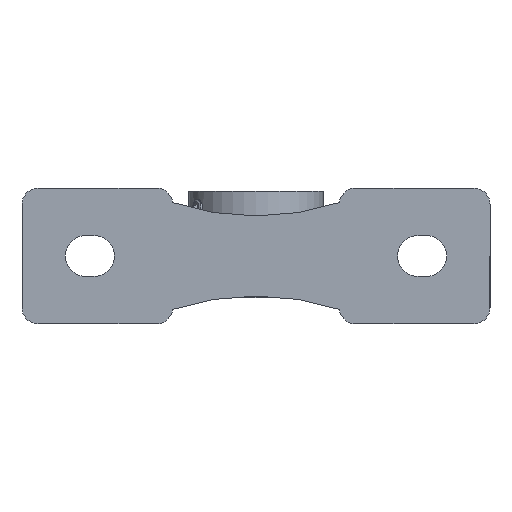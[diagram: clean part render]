
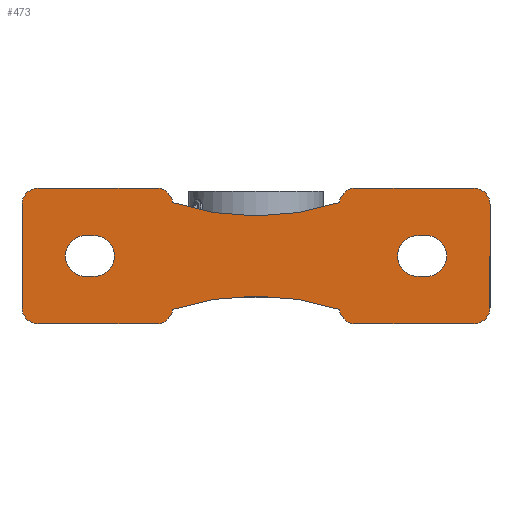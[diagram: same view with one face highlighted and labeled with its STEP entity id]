
A CAD part, front view. The second image highlights one B-rep face of the part: STEP entity #473.
In plain terms, the highlighted planar face has unit normal (0, -1, 0).
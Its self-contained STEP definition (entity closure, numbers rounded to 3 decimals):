
#256=CARTESIAN_POINT('',(0.,-76.2,0.));
#257=DIRECTION('',(0.0,1.0,0.0));
#258=DIRECTION('',(0.0,0.0,1.0));
#259=AXIS2_PLACEMENT_3D('',#256,#257,#258);
#260=PLANE('',#259);
#261=CARTESIAN_POINT('',(-133.0,-76.2,-41.5));
#262=VERTEX_POINT('',#261);
#263=CARTESIAN_POINT('',(-143.0,-76.2,-31.5));
#264=VERTEX_POINT('',#263);
#265=CARTESIAN_POINT('',(-133.0,-76.2,-31.5));
#266=DIRECTION('',(0.0,1.0,0.0));
#267=DIRECTION('',(-0.707,0.0,-0.707));
#268=AXIS2_PLACEMENT_3D('',#265,#266,#267);
#269=CIRCLE('',#268,10.);
#270=EDGE_CURVE('',#262,#264,#269,.T.);
#271=ORIENTED_EDGE('',*,*,#270,.F.);
#272=CARTESIAN_POINT('',(-60.93,-76.2,-41.5));
#273=VERTEX_POINT('',#272);
#274=CARTESIAN_POINT('',(-60.93,-76.2,-41.5));
#275=DIRECTION('',(-1.0,0.0,0.0));
#276=VECTOR('',#275,72.07);
#277=LINE('',#274,#276);
#278=EDGE_CURVE('',#273,#262,#277,.T.);
#279=ORIENTED_EDGE('',*,*,#278,.F.);
#280=CARTESIAN_POINT('',(-51.,-76.2,-32.684));
#281=VERTEX_POINT('',#280);
#282=CARTESIAN_POINT('',(-60.93,-76.2,-31.5));
#283=DIRECTION('',(0.0,1.0,0.0));
#284=DIRECTION('',(0.993,0.0,-0.118));
#285=AXIS2_PLACEMENT_3D('',#282,#283,#284);
#286=CIRCLE('',#285,10.);
#287=EDGE_CURVE('',#281,#273,#286,.T.);
#288=ORIENTED_EDGE('',*,*,#287,.F.);
#289=CARTESIAN_POINT('',(51.,-76.2,-32.684));
#290=VERTEX_POINT('',#289);
#291=CARTESIAN_POINT('',(0.,-76.2,-187.5));
#292=DIRECTION('',(0.0,-1.0,0.0));
#293=DIRECTION('',(1.0,0.0,0.0));
#294=AXIS2_PLACEMENT_3D('',#291,#292,#293);
#295=CIRCLE('',#294,163.0);
#296=EDGE_CURVE('',#290,#281,#295,.T.);
#297=ORIENTED_EDGE('',*,*,#296,.F.);
#298=CARTESIAN_POINT('',(60.93,-76.2,-41.5));
#299=VERTEX_POINT('',#298);
#300=CARTESIAN_POINT('',(60.93,-76.2,-31.5));
#301=DIRECTION('',(0.0,1.0,0.0));
#302=DIRECTION('',(-0.993,0.0,-0.118));
#303=AXIS2_PLACEMENT_3D('',#300,#301,#302);
#304=CIRCLE('',#303,10.);
#305=EDGE_CURVE('',#299,#290,#304,.T.);
#306=ORIENTED_EDGE('',*,*,#305,.F.);
#307=CARTESIAN_POINT('',(133.0,-76.2,-41.5));
#308=VERTEX_POINT('',#307);
#309=CARTESIAN_POINT('',(133.0,-76.2,-41.5));
#310=DIRECTION('',(-1.0,0.0,0.0));
#311=VECTOR('',#310,72.07);
#312=LINE('',#309,#311);
#313=EDGE_CURVE('',#308,#299,#312,.T.);
#314=ORIENTED_EDGE('',*,*,#313,.F.);
#315=CARTESIAN_POINT('',(143.,-76.2,-31.5));
#316=VERTEX_POINT('',#315);
#317=CARTESIAN_POINT('',(133.0,-76.2,-31.5));
#318=DIRECTION('',(0.0,1.0,0.0));
#319=DIRECTION('',(0.707,0.0,-0.707));
#320=AXIS2_PLACEMENT_3D('',#317,#318,#319);
#321=CIRCLE('',#320,10.);
#322=EDGE_CURVE('',#316,#308,#321,.T.);
#323=ORIENTED_EDGE('',*,*,#322,.F.);
#324=CARTESIAN_POINT('',(143.0,-76.2,31.5));
#325=VERTEX_POINT('',#324);
#326=CARTESIAN_POINT('',(143.0,-76.2,31.5));
#327=DIRECTION('',(0.0,0.0,-1.0));
#328=VECTOR('',#327,63.);
#329=LINE('',#326,#328);
#330=EDGE_CURVE('',#325,#316,#329,.T.);
#331=ORIENTED_EDGE('',*,*,#330,.F.);
#332=CARTESIAN_POINT('',(133.0,-76.2,41.5));
#333=VERTEX_POINT('',#332);
#334=CARTESIAN_POINT('',(133.0,-76.2,31.5));
#335=DIRECTION('',(0.0,1.0,0.0));
#336=DIRECTION('',(0.707,0.0,0.707));
#337=AXIS2_PLACEMENT_3D('',#334,#335,#336);
#338=CIRCLE('',#337,10.);
#339=EDGE_CURVE('',#333,#325,#338,.T.);
#340=ORIENTED_EDGE('',*,*,#339,.F.);
#341=CARTESIAN_POINT('',(60.93,-76.2,41.5));
#342=VERTEX_POINT('',#341);
#343=CARTESIAN_POINT('',(60.93,-76.2,41.5));
#344=DIRECTION('',(1.0,0.0,0.0));
#345=VECTOR('',#344,72.07);
#346=LINE('',#343,#345);
#347=EDGE_CURVE('',#342,#333,#346,.T.);
#348=ORIENTED_EDGE('',*,*,#347,.F.);
#349=CARTESIAN_POINT('',(51.,-76.2,32.684));
#350=VERTEX_POINT('',#349);
#351=CARTESIAN_POINT('',(60.93,-76.2,31.5));
#352=DIRECTION('',(0.0,1.0,0.0));
#353=DIRECTION('',(-0.993,0.0,0.118));
#354=AXIS2_PLACEMENT_3D('',#351,#352,#353);
#355=CIRCLE('',#354,10.);
#356=EDGE_CURVE('',#350,#342,#355,.T.);
#357=ORIENTED_EDGE('',*,*,#356,.F.);
#358=CARTESIAN_POINT('',(-51.,-76.2,32.684));
#359=VERTEX_POINT('',#358);
#360=CARTESIAN_POINT('',(0.,-76.2,187.5));
#361=DIRECTION('',(0.0,-1.0,0.0));
#362=DIRECTION('',(1.0,0.0,0.0));
#363=AXIS2_PLACEMENT_3D('',#360,#361,#362);
#364=CIRCLE('',#363,163.0);
#365=EDGE_CURVE('',#359,#350,#364,.T.);
#366=ORIENTED_EDGE('',*,*,#365,.F.);
#367=CARTESIAN_POINT('',(-60.93,-76.2,41.5));
#368=VERTEX_POINT('',#367);
#369=CARTESIAN_POINT('',(-60.93,-76.2,31.5));
#370=DIRECTION('',(0.0,1.0,0.0));
#371=DIRECTION('',(0.993,0.0,0.118));
#372=AXIS2_PLACEMENT_3D('',#369,#370,#371);
#373=CIRCLE('',#372,10.);
#374=EDGE_CURVE('',#368,#359,#373,.T.);
#375=ORIENTED_EDGE('',*,*,#374,.F.);
#376=CARTESIAN_POINT('',(-133.0,-76.2,41.5));
#377=VERTEX_POINT('',#376);
#378=CARTESIAN_POINT('',(-133.0,-76.2,41.5));
#379=DIRECTION('',(1.0,0.0,0.0));
#380=VECTOR('',#379,72.07);
#381=LINE('',#378,#380);
#382=EDGE_CURVE('',#377,#368,#381,.T.);
#383=ORIENTED_EDGE('',*,*,#382,.F.);
#384=CARTESIAN_POINT('',(-143.0,-76.2,31.5));
#385=VERTEX_POINT('',#384);
#386=CARTESIAN_POINT('',(-133.0,-76.2,31.5));
#387=DIRECTION('',(0.0,1.0,0.0));
#388=DIRECTION('',(-0.707,0.0,0.707));
#389=AXIS2_PLACEMENT_3D('',#386,#387,#388);
#390=CIRCLE('',#389,10.);
#391=EDGE_CURVE('',#385,#377,#390,.T.);
#392=ORIENTED_EDGE('',*,*,#391,.F.);
#393=CARTESIAN_POINT('',(-143.0,-76.2,-31.5));
#394=DIRECTION('',(0.0,0.0,1.0));
#395=VECTOR('',#394,63.);
#396=LINE('',#393,#395);
#397=EDGE_CURVE('',#264,#385,#396,.T.);
#398=ORIENTED_EDGE('',*,*,#397,.F.);
#399=EDGE_LOOP('',(#271,#279,#288,#297,#306,#314,#323,#331,#340,#348,#357,#366,#375,#383,#392,#398));
#400=FACE_OUTER_BOUND('',#399,.T.);
#401=CARTESIAN_POINT('',(99.0,-76.2,-12.5));
#402=VERTEX_POINT('',#401);
#403=CARTESIAN_POINT('',(104.,-76.2,-12.5));
#404=VERTEX_POINT('',#403);
#405=CARTESIAN_POINT('',(99.0,-76.2,-12.5));
#406=DIRECTION('',(1.0,0.0,0.0));
#407=VECTOR('',#406,5.);
#408=LINE('',#405,#407);
#409=EDGE_CURVE('',#402,#404,#408,.T.);
#410=ORIENTED_EDGE('',*,*,#409,.F.);
#411=CARTESIAN_POINT('',(99.,-76.2,12.5));
#412=VERTEX_POINT('',#411);
#413=CARTESIAN_POINT('',(99.0,-76.2,0.0));
#414=DIRECTION('',(0.0,-1.0,0.0));
#415=DIRECTION('',(0.0,0.0,1.0));
#416=AXIS2_PLACEMENT_3D('',#413,#414,#415);
#417=CIRCLE('',#416,12.5);
#418=EDGE_CURVE('',#412,#402,#417,.T.);
#419=ORIENTED_EDGE('',*,*,#418,.F.);
#420=CARTESIAN_POINT('',(104.,-76.2,12.5));
#421=VERTEX_POINT('',#420);
#422=CARTESIAN_POINT('',(104.,-76.2,12.5));
#423=DIRECTION('',(-1.0,0.0,0.0));
#424=VECTOR('',#423,5.0);
#425=LINE('',#422,#424);
#426=EDGE_CURVE('',#421,#412,#425,.T.);
#427=ORIENTED_EDGE('',*,*,#426,.F.);
#428=CARTESIAN_POINT('',(104.,-76.2,0.0));
#429=DIRECTION('',(0.0,-1.0,0.0));
#430=DIRECTION('',(0.0,0.0,-1.0));
#431=AXIS2_PLACEMENT_3D('',#428,#429,#430);
#432=CIRCLE('',#431,12.5);
#433=EDGE_CURVE('',#404,#421,#432,.T.);
#434=ORIENTED_EDGE('',*,*,#433,.F.);
#435=EDGE_LOOP('',(#410,#419,#427,#434));
#436=FACE_BOUND('',#435,.T.);
#437=CARTESIAN_POINT('',(-99.,-76.2,-12.5));
#438=VERTEX_POINT('',#437);
#439=CARTESIAN_POINT('',(-99.,-76.2,12.5));
#440=VERTEX_POINT('',#439);
#441=CARTESIAN_POINT('',(-99.0,-76.2,0.0));
#442=DIRECTION('',(0.0,-1.0,0.0));
#443=DIRECTION('',(0.0,0.0,-1.0));
#444=AXIS2_PLACEMENT_3D('',#441,#442,#443);
#445=CIRCLE('',#444,12.5);
#446=EDGE_CURVE('',#438,#440,#445,.T.);
#447=ORIENTED_EDGE('',*,*,#446,.F.);
#448=CARTESIAN_POINT('',(-104.,-76.2,-12.5));
#449=VERTEX_POINT('',#448);
#450=CARTESIAN_POINT('',(-104.,-76.2,-12.5));
#451=DIRECTION('',(1.0,0.0,0.0));
#452=VECTOR('',#451,5.0);
#453=LINE('',#450,#452);
#454=EDGE_CURVE('',#449,#438,#453,.T.);
#455=ORIENTED_EDGE('',*,*,#454,.F.);
#456=CARTESIAN_POINT('',(-104.,-76.2,12.5));
#457=VERTEX_POINT('',#456);
#458=CARTESIAN_POINT('',(-104.,-76.2,0.0));
#459=DIRECTION('',(0.0,-1.0,0.0));
#460=DIRECTION('',(0.0,0.0,1.0));
#461=AXIS2_PLACEMENT_3D('',#458,#459,#460);
#462=CIRCLE('',#461,12.5);
#463=EDGE_CURVE('',#457,#449,#462,.T.);
#464=ORIENTED_EDGE('',*,*,#463,.F.);
#465=CARTESIAN_POINT('',(-99.,-76.2,12.5));
#466=DIRECTION('',(-1.0,0.0,0.0));
#467=VECTOR('',#466,5.0);
#468=LINE('',#465,#467);
#469=EDGE_CURVE('',#440,#457,#468,.T.);
#470=ORIENTED_EDGE('',*,*,#469,.F.);
#471=EDGE_LOOP('',(#447,#455,#464,#470));
#472=FACE_BOUND('',#471,.T.);
#473=ADVANCED_FACE('',(#400,#436,#472),#260,.F.);
